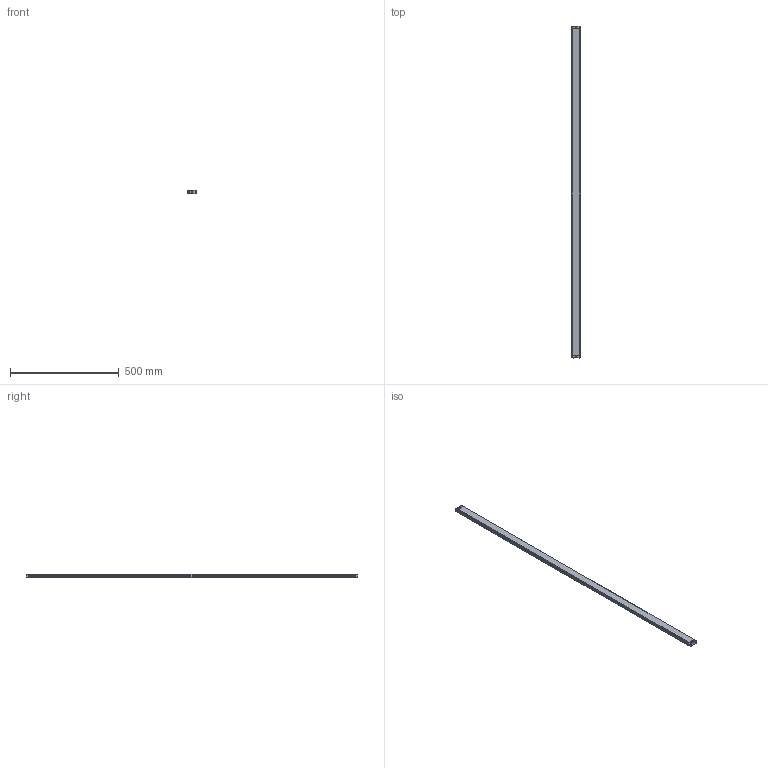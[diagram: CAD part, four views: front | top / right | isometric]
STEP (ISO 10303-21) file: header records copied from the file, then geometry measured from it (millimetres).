
FILE_DESCRIPTION((''),'2;1');
FILE_NAME('EB15--3610_ASM','2021-07-22T11:35:16',('18720616900'),(''),'CREO PARAMETRIC BY PTC INC, 2019010','CREO PARAMETRIC BY PTC INC, 2019010','');
FILE_SCHEMA(('CONFIG_CONTROL_DESIGN'));
Length unit declared in the file: millimetre
Products named in the file (6): EB15-00; EB15-000; EB15-0003; EB15-0004; ST-3-12; EB15--3610_ASM
Assembly tree (12 placements, depth 2):
  EB15--3610_ASM
    EB15-00
    EB15-000
    EB15-0003
    EB15-0004
    ST-3-12  x8
Bounding box: 39.15 x 1525 x 15.8 mm (x, y, z)
Volume: 916996.4 mm3; surface area: 219353.2 mm2
Topology: 12 solids, 12 shells, 827 faces, 2188 edges, 1368 vertices
Faces by surface type: plane 242, bspline 188, cone 176, cylinder 165, torus 40, sphere 16
Entity records: 16044 total; most frequent: CARTESIAN_POINT 7660, ORIENTED_EDGE 1804, DIRECTION 1603, EDGE_CURVE 902, AXIS2_PLACEMENT_3D 577, VERTEX_POINT 563, VECTOR 449, LINE 449
